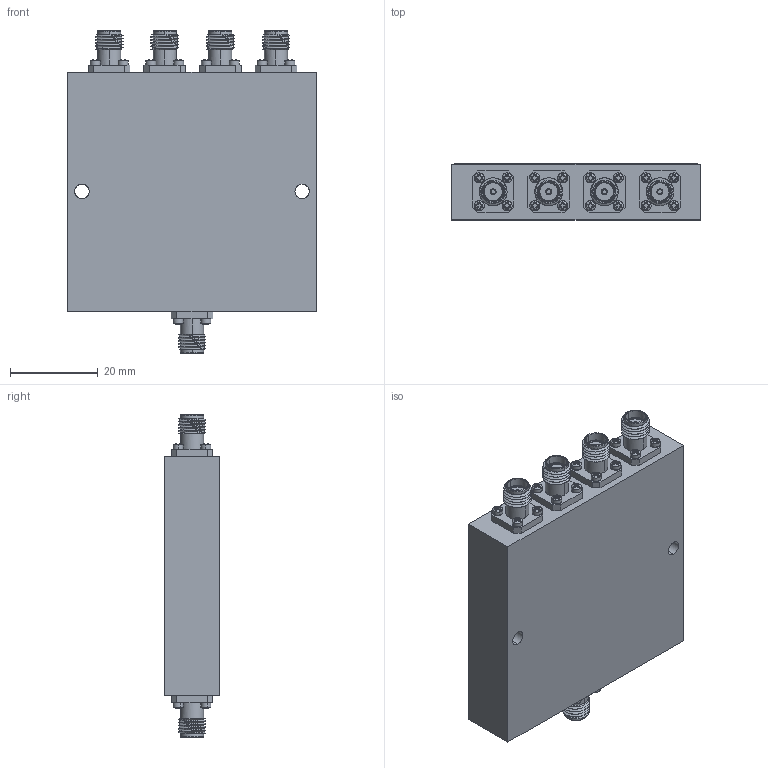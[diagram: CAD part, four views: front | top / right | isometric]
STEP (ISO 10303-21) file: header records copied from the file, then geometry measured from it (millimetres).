
FILE_DESCRIPTION (( 'STEP AP214' ), '1' );
FILE_NAME ('APD-4-218-LC.STEP', '2026-07-01T19:51:13', ( '' ), ( '' ), 'SwSTEP 2.0', 'SolidWorks 2025', '' );
FILE_SCHEMA (( 'AUTOMOTIVE_DESIGN' ));
Length unit declared in the file: inch
Products named in the file (1): APD-4-218-LC
Bounding box: 56.64 x 12.73 x 73.66 mm (x, y, z)
Surface area: 17273.7 mm2 (no closed solid volume)
Topology: 0 solids, 32 shells, 896 faces, 3323 edges, 2595 vertices
Faces by surface type: plane 537, cylinder 147, cone 100, torus 62, sphere 40, bspline 10
Entity records: 62352 total; most frequent: CARTESIAN_POINT 27823, ORIENTED_EDGE 6056, EDGE_CURVE 3323, DIRECTION 2709, VERTEX_POINT 2595, B_SPLINE_CURVE_WITH_KNOTS 2393, EDGE_LOOP 1084, AXIS2_PLACEMENT_3D 992
